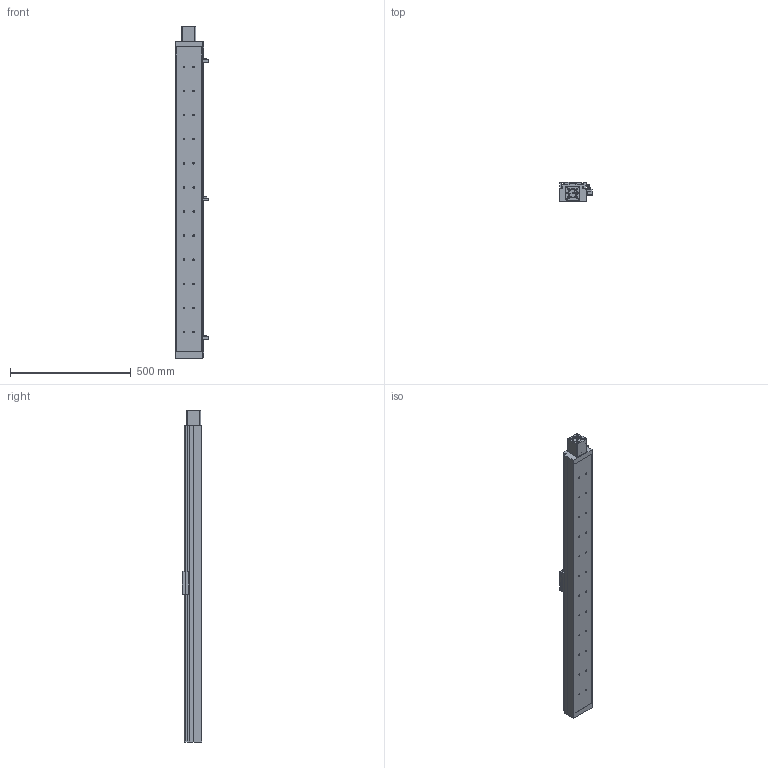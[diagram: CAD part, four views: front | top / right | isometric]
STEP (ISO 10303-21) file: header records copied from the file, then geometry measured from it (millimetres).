
FILE_DESCRIPTION((''),'2;1');
FILE_NAME('E:\libraries\UIA actuator library 2009\standard actuator\UIA110R12(15)DC\UIA110R12(15)DC-ball screw dia.20\UIA110R12(15)DC-_ _ _-R20_ _-M23 step file 20Apr16\UIA110R12(15)DC-1150-R20_ _-M23-P13-C10-S.stp','2016-04-21T16:37:06',('h029'),(''),'Autodesk Inventor 11','Autodesk Inventor 11','');
FILE_SCHEMA(('AUTOMOTIVE_DESIGN { 1 0 10303 214 1 1 1 1 }'));
Length unit declared in the file: millimetre
Products named in the file (10): UIA110R12(15)DC-1150, ball screw dia.20; body, UIA110R12(15)DC-1150,ball screw dia.20; Carriage, UIA110R12(15)DC; Sen Switch, UIA110R12(15)DC; sensor rail, UIA110R12(15)DC-1150; SOH-32C; SOH-32C-3; SOH-32C-1; SOH-32C-2; M23 motor mount
Assembly tree (9 placements, depth 3):
  UIA110R12(15)DC-1150, ball screw dia.20
    body, UIA110R12(15)DC-1150,ball screw dia.20
    Carriage, UIA110R12(15)DC
    Sen Switch, UIA110R12(15)DC
    sensor rail, UIA110R12(15)DC-1150
    SOH-32C
      SOH-32C-3
      SOH-32C-1
      SOH-32C-2
    M23 motor mount
Bounding box: 136.5 x 81 x 1377 mm (x, y, z)
Volume: 9847610.1 mm3; surface area: 739789.9 mm2
Topology: 8 solids, 8 shells, 677 faces, 1776 edges, 1165 vertices
Faces by surface type: plane 427, cylinder 148, bspline 83, cone 19
Full cylindrical faces by diameter (mm): 2.459 x4, 3.242 x4, 4 x6, 4.5 x4, 5.5 x3, 6.35 x1, 6.5 x24, 7.5 x4, 9.5 x6, 10 x2, 10.5 x24, 12 x1, 25 x1, 32 x3, 37 x1, 38.1 x1, 42 x1, 42.01 x1, 43.5 x1
Entity records: 21220 total; most frequent: CARTESIAN_POINT 5283, DIRECTION 3223, ORIENTED_EDGE 3034, EDGE_CURVE 1517, AXIS2_PLACEMENT_3D 1110, VERTEX_POINT 1088, VECTOR 1003, LINE 1003
